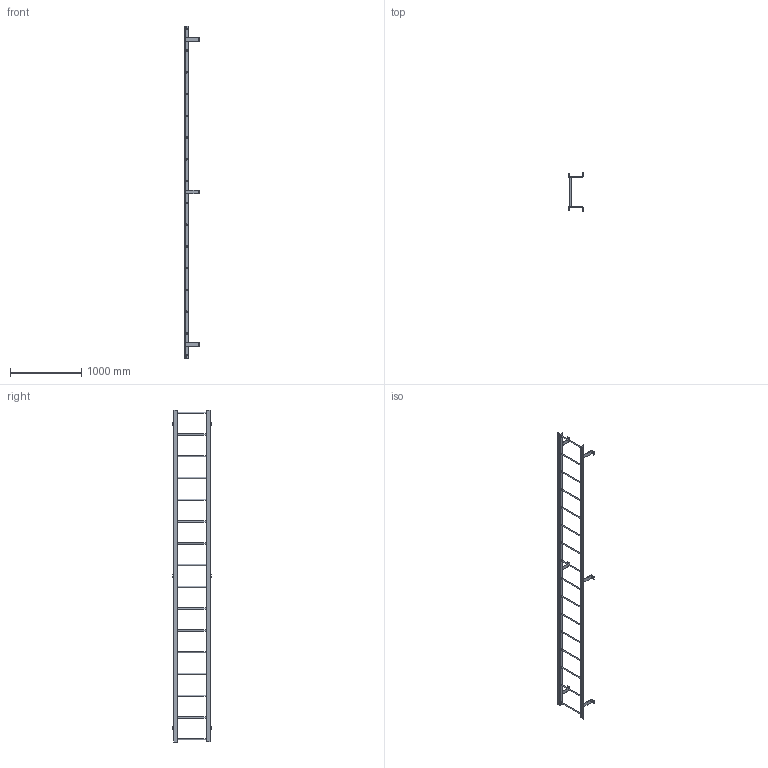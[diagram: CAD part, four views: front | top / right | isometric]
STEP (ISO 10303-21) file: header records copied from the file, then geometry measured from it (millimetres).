
FILE_DESCRIPTION(/* description */ (''),/* implementation_level */ '2;1');
FILE_NAME(/* name */ 'P:\MIKEL & KAREN\3570216 F16S SIMPLIFIED PART.stp',/* time_stamp */ '2018-07-02T15:33:51-04:00',/* author */ ('stephanie'),/* organization */ (''),/* preprocessor_version */ 'ST-DEVELOPER v16.1',/* originating_system */ 'Autodesk Inventor 2016',/* authorisation */ '');
FILE_SCHEMA (('AUTOMOTIVE_DESIGN { 1 0 10303 214 3 1 1 }'));
Length unit declared in the file: centimetre
Products named in the file (1): 3570216 F16S SIMPLIFIED PART
Bounding box: 203.33 x 533.25 x 4648.2 mm (x, y, z)
Volume: 7956688.5 mm3; surface area: 2386027.1 mm2
Topology: 18 solids, 18 shells, 188 faces, 482 edges, 330 vertices
Faces by surface type: plane 103, cylinder 85
Full cylindrical faces by diameter (mm): 14.287 x6, 19.05 x16, 22.225 x32
Entity records: 5552 total; most frequent: DIRECTION 950, CARTESIAN_POINT 871, ORIENTED_EDGE 780, EDGE_CURVE 390, AXIS2_PLACEMENT_3D 371, EDGE_LOOP 318, VERTEX_POINT 292, LINE 208
